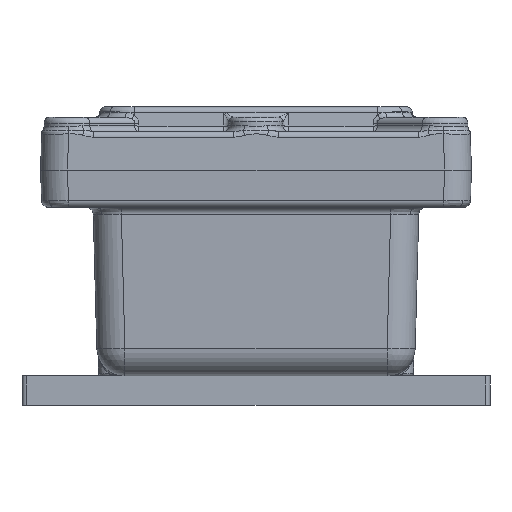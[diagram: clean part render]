
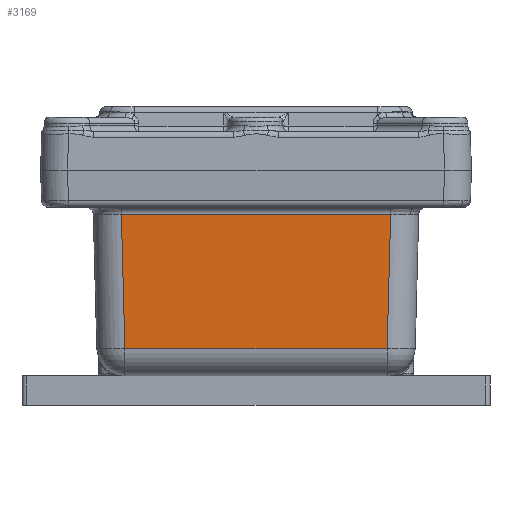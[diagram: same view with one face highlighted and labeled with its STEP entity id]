
A CAD part, left-side view. The second image highlights one B-rep face of the part: STEP entity #3169.
In plain terms, the highlighted planar face has unit normal (-1, 0, -0.026) as drawn and (0, -0.026, 1) by its records, which use the part's own axes.
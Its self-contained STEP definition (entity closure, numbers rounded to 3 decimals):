
#3169=ADVANCED_FACE('',(#16639),#16641,.T.);
#16639=FACE_BOUND('',#16640,.T.);
#16640=EDGE_LOOP('',(#30942,#30943,#30944,#30945));
#16641=PLANE('',#16642);
#16642=AXIS2_PLACEMENT_3D('',#16643,#16644,#16645);
#16643=CARTESIAN_POINT('',(69.615,-15.,119.615));
#16644=DIRECTION('',(0.,-0.026,1.));
#16645=DIRECTION('',(0.,-1.,-0.026));
#30942=ORIENTED_EDGE('',*,*,#37312,.T.);
#30943=ORIENTED_EDGE('',*,*,#37313,.T.);
#30944=ORIENTED_EDGE('',*,*,#37314,.T.);
#30945=ORIENTED_EDGE('',*,*,#37207,.T.);
#37207=EDGE_CURVE('',#40556,#40558,#40560,.T.);
#37312=EDGE_CURVE('',#40558,#40724,#40725,.T.);
#37313=EDGE_CURVE('',#40724,#40726,#40727,.T.);
#37314=EDGE_CURVE('',#40726,#40556,#40728,.T.);
#40556=VERTEX_POINT('',#47894);
#40558=VERTEX_POINT('',#47899);
#40560=LINE('',#47904,#47905);
#40724=VERTEX_POINT('',#49202);
#40725=LINE('',#49203,#49204);
#40726=VERTEX_POINT('',#49206);
#40727=LINE('',#49207,#49208);
#40728=LINE('',#49210,#49211);
#47894=CARTESIAN_POINT('',(-56.04,-75.314,118.036));
#47899=CARTESIAN_POINT('',(56.04,-75.314,118.036));
#47904=CARTESIAN_POINT('',(-56.04,-75.314,118.036));
#47905=VECTOR('',#47906,1.);
#47906=DIRECTION('',(1.,0.,0.));
#49202=CARTESIAN_POINT('',(57.543,-17.921,119.538));
#49203=CARTESIAN_POINT('',(56.04,-75.314,118.036));
#49204=VECTOR('',#49205,1.);
#49205=DIRECTION('',(0.026,0.999,0.026));
#49206=CARTESIAN_POINT('',(-57.543,-17.921,119.538));
#49207=CARTESIAN_POINT('',(57.543,-17.921,119.538));
#49208=VECTOR('',#49209,1.);
#49209=DIRECTION('',(-1.,0.,0.));
#49210=CARTESIAN_POINT('',(-57.543,-17.921,119.538));
#49211=VECTOR('',#49212,1.);
#49212=DIRECTION('',(0.026,-0.999,-0.026));
